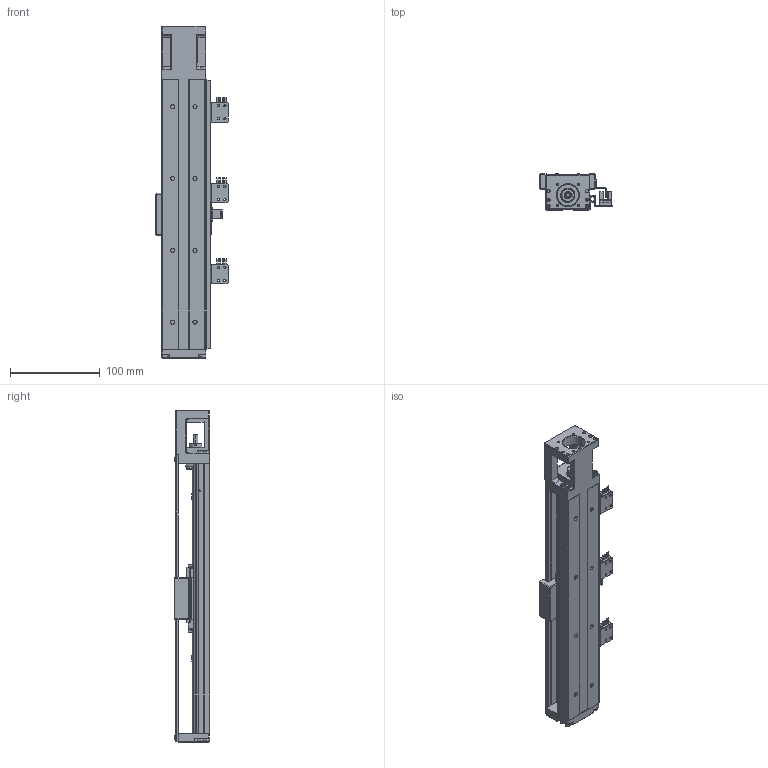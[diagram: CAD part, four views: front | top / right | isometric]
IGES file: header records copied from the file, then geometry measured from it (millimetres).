
Start section: SolidWorks IGES file using analytic representation for surfaces
Global section: file name: C:\Users\Administrator\Desktop\GSX50C-250\ﾓﾐｻｬﾌｨ\GSX50C-MF-300L-ﾓﾐｻｬﾌｨ.IGS; native system: SolidWorks 2013; preprocessor: SolidWorks 2013; author: ｹｾﾇｿ,; organization: 11; date: 170412.113531; units: millimetre
Bounding box: 80.3 x 40 x 370 mm (x, y, z)
Surface area: 168234.7 mm2 (no closed solid volume)
Topology: 0 solids, 0 shells, 1767 faces, 18928 edges, 18790 vertices
Faces by surface type: bspline 1087, revolution 680
